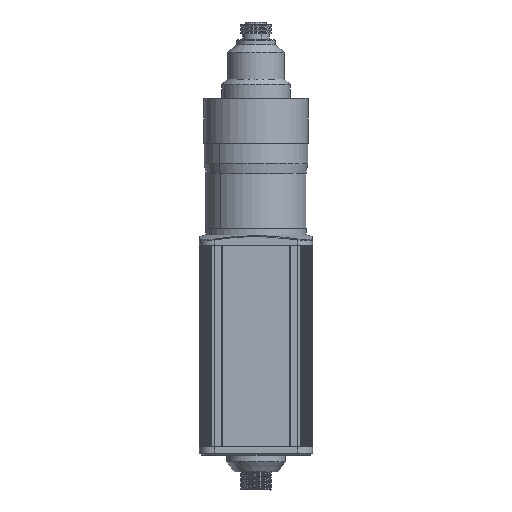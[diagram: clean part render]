
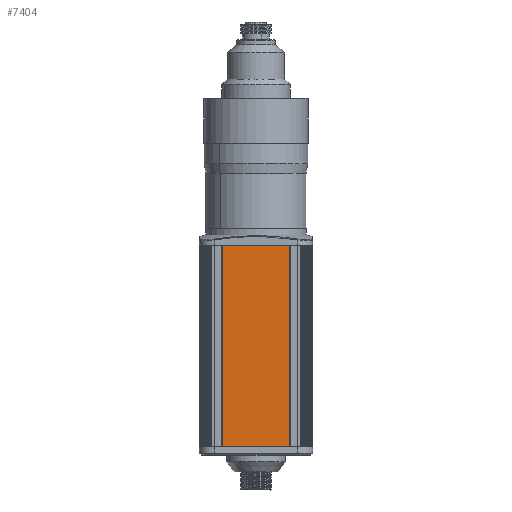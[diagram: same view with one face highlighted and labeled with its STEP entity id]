
A CAD part, front view. The second image highlights one B-rep face of the part: STEP entity #7404.
In plain terms, the highlighted planar face has unit normal (0, -1, 0).
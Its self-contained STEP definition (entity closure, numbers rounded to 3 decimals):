
#480 = DIRECTION ( 'NONE',  ( 0., 0., 1. ) ) ;
#1593 = AXIS2_PLACEMENT_3D ( 'NONE', #22647, #12545, #12204 ) ;
#1766 = VECTOR ( 'NONE', #480, 1000. ) ;
#2077 = CARTESIAN_POINT ( 'NONE',  ( 20., -31.2, -60.5 ) ) ;
#2157 = LINE ( 'NONE', #18122, #26044 ) ;
#2936 = VERTEX_POINT ( 'NONE', #7667 ) ;
#7404 = ADVANCED_FACE ( 'NONE', ( #27552 ), #17425, .F. ) ;
#7560 = DIRECTION ( 'NONE',  ( -1., 0., 0. ) ) ;
#7667 = CARTESIAN_POINT ( 'NONE',  ( -20., -31.2, -60.5 ) ) ;
#10254 = DIRECTION ( 'NONE',  ( 0., 0., 1. ) ) ;
#10316 = LINE ( 'NONE', #2077, #31828 ) ;
#11504 = ORIENTED_EDGE ( 'NONE', *, *, #29519, .T. ) ;
#12204 = DIRECTION ( 'NONE',  ( -1., 0., 0. ) ) ;
#12355 = DIRECTION ( 'NONE',  ( -1., 0., 0. ) ) ;
#12545 = DIRECTION ( 'NONE',  ( 0., 1., 0. ) ) ;
#15296 = LINE ( 'NONE', #25575, #17879 ) ;
#16445 = VERTEX_POINT ( 'NONE', #25293 ) ;
#16767 = CARTESIAN_POINT ( 'NONE',  ( -20., -31.2, -180.5 ) ) ;
#17425 = PLANE ( 'NONE',  #1593 ) ;
#17879 = VECTOR ( 'NONE', #10254, 1000. ) ;
#18122 = CARTESIAN_POINT ( 'NONE',  ( 20., -31.2, -180.5 ) ) ;
#19849 = LINE ( 'NONE', #20513, #1766 ) ;
#20513 = CARTESIAN_POINT ( 'NONE',  ( -20., -31.2, -180.5 ) ) ;
#21834 = CARTESIAN_POINT ( 'NONE',  ( 20., -31.2, -60.5 ) ) ;
#22062 = EDGE_LOOP ( 'NONE', ( #29931, #27436, #33273, #11504 ) ) ;
#22647 = CARTESIAN_POINT ( 'NONE',  ( 20., -31.2, -180.5 ) ) ;
#25293 = CARTESIAN_POINT ( 'NONE',  ( 20., -31.2, -180.5 ) ) ;
#25575 = CARTESIAN_POINT ( 'NONE',  ( 20., -31.2, -180.5 ) ) ;
#26044 = VECTOR ( 'NONE', #7560, 1000. ) ;
#26850 = EDGE_CURVE ( 'NONE', #30339, #2936, #10316, .T. ) ;
#27436 = ORIENTED_EDGE ( 'NONE', *, *, #29550, .F. ) ;
#27552 = FACE_OUTER_BOUND ( 'NONE', #22062, .T. ) ;
#29519 = EDGE_CURVE ( 'NONE', #16445, #30339, #15296, .T. ) ;
#29550 = EDGE_CURVE ( 'NONE', #31982, #2936, #19849, .T. ) ;
#29931 = ORIENTED_EDGE ( 'NONE', *, *, #26850, .T. ) ;
#30339 = VERTEX_POINT ( 'NONE', #21834 ) ;
#31385 = EDGE_CURVE ( 'NONE', #16445, #31982, #2157, .T. ) ;
#31828 = VECTOR ( 'NONE', #12355, 1000. ) ;
#31982 = VERTEX_POINT ( 'NONE', #16767 ) ;
#33273 = ORIENTED_EDGE ( 'NONE', *, *, #31385, .F. ) ;
